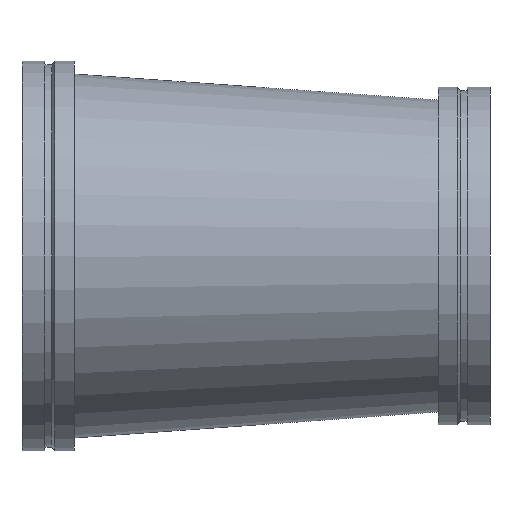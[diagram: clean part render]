
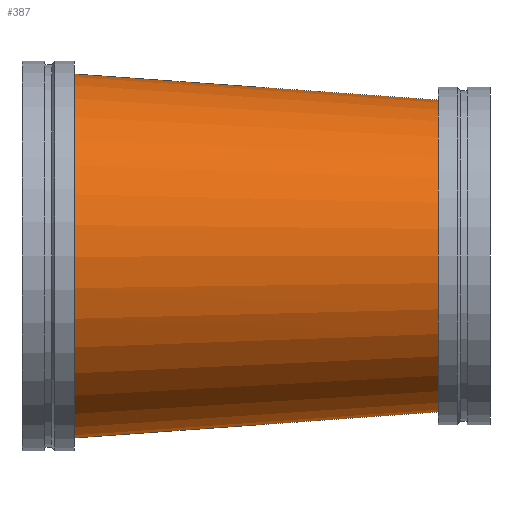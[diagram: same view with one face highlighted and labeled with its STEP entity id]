
A CAD part, front view. The second image highlights one B-rep face of the part: STEP entity #387.
In plain terms, the highlighted free-form (B-spline) face has degree [1, 2] with [2, 9] control points.
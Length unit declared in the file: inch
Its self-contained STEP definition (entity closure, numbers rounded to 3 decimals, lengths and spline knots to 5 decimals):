
#46=B_SPLINE_CURVE_WITH_KNOTS('',1,(#747,#748),.UNSPECIFIED.,.F.,.F.,(2,
2),(-2.01046,-0.00036),.UNSPECIFIED.);
#48=(
BOUNDED_SURFACE()
B_SPLINE_SURFACE(1,2,((#729,#730,#731,#732,#733,#734,#735,#736,#737),(#738,
#739,#740,#741,#742,#743,#744,#745,#746)),.UNSPECIFIED.,.F.,.T.,.F.)
B_SPLINE_SURFACE_WITH_KNOTS((2,2),(3,2,2,2,3),(-0.07107,2.07107),
(-3.14159,-1.5708,0.,1.5708,3.14159),
 .UNSPECIFIED.)
GEOMETRIC_REPRESENTATION_ITEM()
RATIONAL_B_SPLINE_SURFACE(((1.,0.707,1.,0.707,1.,
0.707,1.,0.707,1.),(1.,0.707,1.,0.707,
1.,0.707,1.,0.707,1.)))
REPRESENTATION_ITEM('')
SURFACE()
);
#98=FACE_OUTER_BOUND('',#120,.T.);
#120=EDGE_LOOP('',(#321,#322,#323,#324,#325,#326));
#129=CIRCLE('',#415,12.);
#130=CIRCLE('',#416,12.);
#153=CIRCLE('',#450,14.);
#154=CIRCLE('',#451,14.);
#166=VERTEX_POINT('',#628);
#167=VERTEX_POINT('',#629);
#190=VERTEX_POINT('',#695);
#191=VERTEX_POINT('',#696);
#203=EDGE_CURVE('',#166,#167,#129,.T.);
#204=EDGE_CURVE('',#167,#166,#130,.T.);
#235=EDGE_CURVE('',#190,#191,#153,.T.);
#236=EDGE_CURVE('',#191,#190,#154,.T.);
#243=EDGE_CURVE('',#167,#191,#46,.T.);
#321=ORIENTED_EDGE('',*,*,#203,.T.);
#322=ORIENTED_EDGE('',*,*,#243,.T.);
#323=ORIENTED_EDGE('',*,*,#236,.T.);
#324=ORIENTED_EDGE('',*,*,#235,.T.);
#325=ORIENTED_EDGE('',*,*,#243,.F.);
#326=ORIENTED_EDGE('',*,*,#204,.T.);
#387=ADVANCED_FACE('',(#98),#48,.F.);
#415=AXIS2_PLACEMENT_3D('',#630,#486,#487);
#416=AXIS2_PLACEMENT_3D('',#631,#488,#489);
#450=AXIS2_PLACEMENT_3D('',#697,#564,#565);
#451=AXIS2_PLACEMENT_3D('',#698,#566,#567);
#486=DIRECTION('center_axis',(-1.,0.,0.));
#487=DIRECTION('ref_axis',(0.,-1.,0.));
#488=DIRECTION('center_axis',(-1.,0.,0.));
#489=DIRECTION('ref_axis',(0.,-1.,0.));
#564=DIRECTION('center_axis',(1.,0.,0.));
#565=DIRECTION('ref_axis',(0.,1.,0.));
#566=DIRECTION('center_axis',(1.,0.,0.));
#567=DIRECTION('ref_axis',(0.,1.,0.));
#628=CARTESIAN_POINT('',(32.,-14.,0.));
#629=CARTESIAN_POINT('',(32.,-2.06061,11.99985));
#630=CARTESIAN_POINT('Origin',(32.,-2.,0.));
#631=CARTESIAN_POINT('Origin',(32.,-2.,0.));
#695=CARTESIAN_POINT('',(4.,14.,0.));
#696=CARTESIAN_POINT('',(4.,-0.07071,13.99982));
#697=CARTESIAN_POINT('Origin',(4.,0.,0.));
#698=CARTESIAN_POINT('Origin',(4.,0.,0.));
#729=CARTESIAN_POINT('Ctrl Pts',(3.00505,0.,
14.07089));
#730=CARTESIAN_POINT('Ctrl Pts',(2.0101,-14.,14.07089));
#731=CARTESIAN_POINT('Ctrl Pts',(2.0101,-14.,0.));
#732=CARTESIAN_POINT('Ctrl Pts',(2.0101,-14.,-14.07089));
#733=CARTESIAN_POINT('Ctrl Pts',(3.00505,0.,
-14.07089));
#734=CARTESIAN_POINT('Ctrl Pts',(4.,14.,-14.07089));
#735=CARTESIAN_POINT('Ctrl Pts',(4.,14.,0.));
#736=CARTESIAN_POINT('Ctrl Pts',(4.,14.,14.07089));
#737=CARTESIAN_POINT('Ctrl Pts',(3.00505,0.,
14.07089));
#738=CARTESIAN_POINT('Ctrl Pts',(32.84424,-2.12061,11.93954));
#739=CARTESIAN_POINT('Ctrl Pts',(32.,-14.,11.93954));
#740=CARTESIAN_POINT('Ctrl Pts',(32.,-14.,0.));
#741=CARTESIAN_POINT('Ctrl Pts',(32.,-14.,-11.93954));
#742=CARTESIAN_POINT('Ctrl Pts',(32.84424,-2.12061,-11.93954));
#743=CARTESIAN_POINT('Ctrl Pts',(33.68849,9.75879,-11.93954));
#744=CARTESIAN_POINT('Ctrl Pts',(33.68849,9.75879,0.));
#745=CARTESIAN_POINT('Ctrl Pts',(33.68849,9.75879,11.93954));
#746=CARTESIAN_POINT('Ctrl Pts',(32.84424,-2.12061,11.93954));
#747=CARTESIAN_POINT('Ctrl Pts',(32.,-2.06061,11.99985));
#748=CARTESIAN_POINT('Ctrl Pts',(4.,-0.07071,13.99982));
